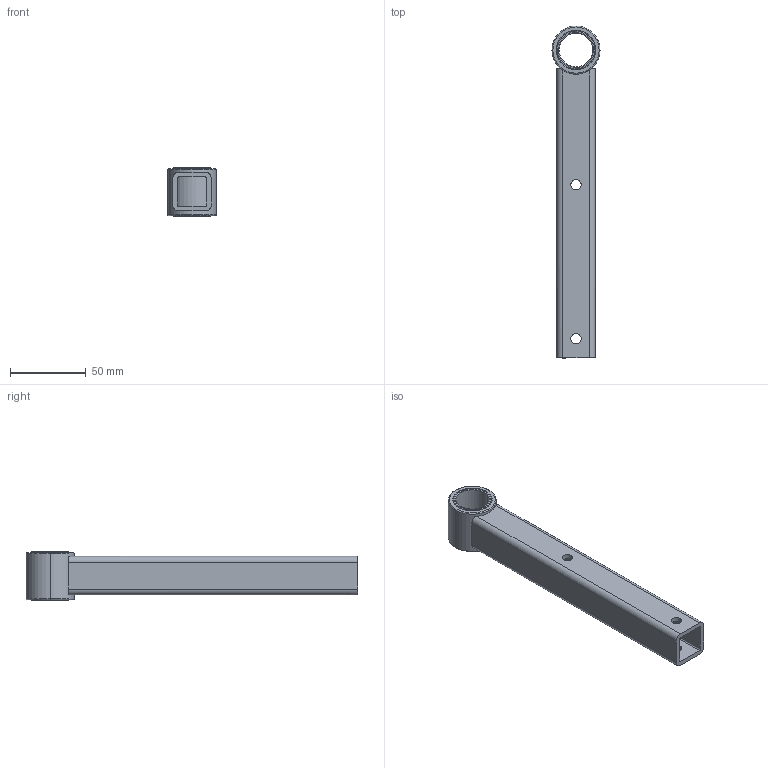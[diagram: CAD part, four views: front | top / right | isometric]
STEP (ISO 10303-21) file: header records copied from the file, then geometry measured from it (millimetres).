
FILE_DESCRIPTION (( 'STEP AP203' ), '1' );
FILE_NAME ('70-0045-00 REV M.STEP', '2020-09-21T18:25:49', ( '' ), ( '' ), 'SwSTEP 2.0', 'SolidWorks 2012', '' );
FILE_SCHEMA (( 'CONFIG_CONTROL_DESIGN' ));
Length unit declared in the file: inch
Products named in the file (6): 71-0047-00 REV A, HOUSING, T AND STRAIGHT BAR_MACHINE; 71-0013-00 REV 1, HOUSING, BEARING, SHORT_MACHINE; 007-031-00_007-031-00; 016-008-00, OILITE PLUS BEARING, 0.876 id x 1.002 od x 1.25 lg; 70-0045-00 REV M; 70-0045-0X REV A, STRAIGHT BAR WELDMENT
Assembly tree (5 placements, depth 3):
  70-0045-00 REV M
    70-0045-0X REV A, STRAIGHT BAR WELDMENT
      71-0013-00 REV 1, HOUSING, BEARING, SHORT_MACHINE
      71-0047-00 REV A, HOUSING, T AND STRAIGHT BAR_MACHINE
    016-008-00, OILITE PLUS BEARING, 0.876 id x 1.002 od x 1.25 lg
    007-031-00_007-031-00
Bounding box: 31.75 x 219.07 x 31.75 mm (x, y, z)
Volume: 61669.4 mm3; surface area: 44154.9 mm2
Topology: 4 solids, 4 shells, 100 faces, 238 edges, 143 vertices
Faces by surface type: cylinder 35, plane 28, cone 22, torus 12, bspline 3
Entity records: 4622 total; most frequent: CARTESIAN_POINT 1707, DIRECTION 497, ORIENTED_EDGE 468, EDGE_CURVE 234, AXIS2_PLACEMENT_3D 204, VERTEX_POINT 143, EDGE_LOOP 117, FACE_OUTER_BOUND 100
